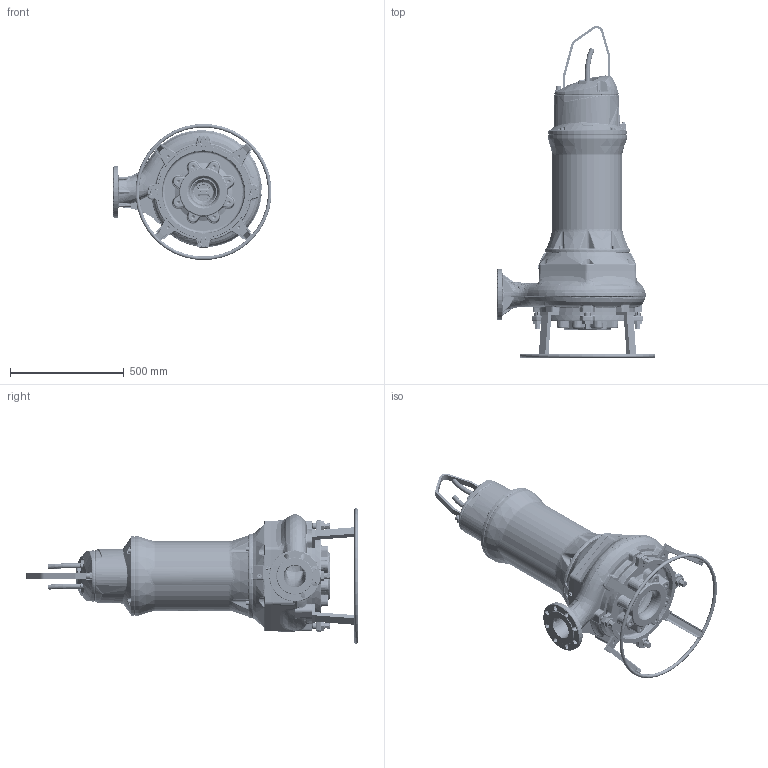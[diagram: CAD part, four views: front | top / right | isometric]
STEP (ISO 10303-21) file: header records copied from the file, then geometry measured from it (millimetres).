
FILE_DESCRIPTION (( 'STEP AP214' ), '1' );
FILE_NAME ('CFP 105J-CB2 SE3 Transportable.STEP', '2020-09-18T14:11:26', ( '' ), ( '' ), 'SwSTEP 2.0', 'SolidWorks 2017', '' );
FILE_SCHEMA (( 'AUTOMOTIVE_DESIGN' ));
Length unit declared in the file: millimetre
Products named in the file (1): CFP 105J-CB2 SE3 Transportable
Bounding box: 698.86 x 1460.4 x 597.72 mm (x, y, z)
Volume: 34451228.9 mm3; surface area: 5196508.4 mm2
Topology: 69 solids, 69 shells, 8699 faces, 21000 edges, 12082 vertices
Faces by surface type: bspline 2291, cylinder 2281, plane 1958, torus 1090, cone 572, sphere 507
Entity records: 571740 total; most frequent: CARTESIAN_POINT 291975, ORIENTED_EDGE 40518, DIRECTION 35398, EDGE_CURVE 20259, AXIS2_PLACEMENT_3D 14351, VERTEX_POINT 12079, EDGE_LOOP 9254, UNCERTAINTY_MEASURE_WITH_UNIT 8769
